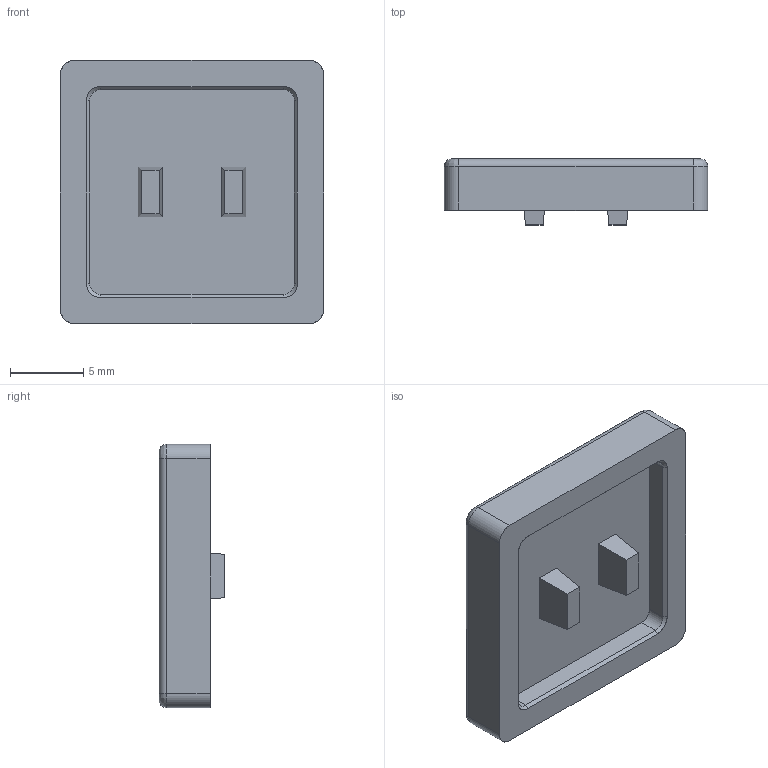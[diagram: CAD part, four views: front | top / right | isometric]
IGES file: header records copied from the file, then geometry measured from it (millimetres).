
Start section: SolidWorks IGES file using analytic representation for surfaces
Global section: file name: G:\byScottua\Keyboards\Kailh\Default.IGS; native system: SolidWorks 2018; preprocessor: SolidWorks 2018; author: PHFHXE; date: 200324.122155; units: millimetre
Bounding box: 18 x 4.5 x 18 mm (x, y, z)
Surface area: 996.2 mm2 (no closed solid volume)
Topology: 0 solids, 0 shells, 56 faces, 521 edges, 521 vertices
Faces by surface type: bspline 40, revolution 16
